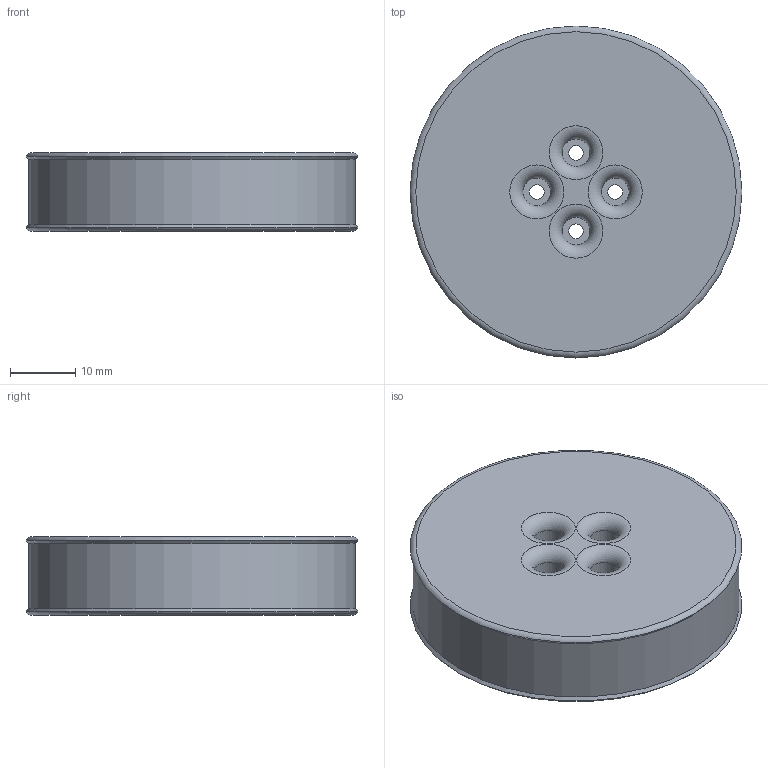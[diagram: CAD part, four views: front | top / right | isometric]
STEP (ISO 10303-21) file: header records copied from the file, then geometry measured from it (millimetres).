
FILE_DESCRIPTION(/* description */ (''),/* implementation_level */ '2;1');
FILE_NAME(/* name */ 'wheel v2.step',/* time_stamp */ '2025-07-16T17:30:13+08:00',/* author */ (''),/* organization */ (''),/* preprocessor_version */ 'ST-DEVELOPER v20.1',/* originating_system */ 'Autodesk Translation Framework v14.10.0.0',/* authorisation */ '');
FILE_SCHEMA (('AUTOMOTIVE_DESIGN { 1 0 10303 214 3 1 1 }'));
Length unit declared in the file: millimetre
Products named in the file (1): wheel
Bounding box: 50.75 x 50.75 x 12 mm (x, y, z)
Volume: 22996.7 mm3; surface area: 6365.6 mm2
Topology: 1 solids, 1 shells, 23 faces, 48 edges, 31 vertices
Faces by surface type: cylinder 9, torus 6, plane 6, cone 2
Full cylindrical faces by diameter (mm): 2.25 x4, 4.25 x4, 50 x1
Entity records: 684 total; most frequent: DIRECTION 133, CARTESIAN_POINT 103, ORIENTED_EDGE 96, AXIS2_PLACEMENT_3D 61, EDGE_CURVE 48, CIRCLE 37, EDGE_LOOP 35, VERTEX_POINT 31
